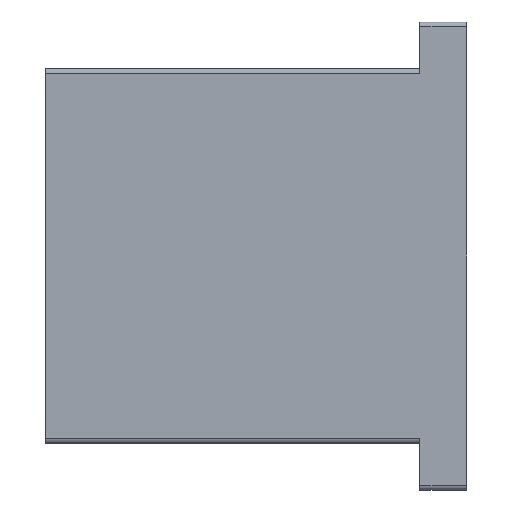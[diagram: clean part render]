
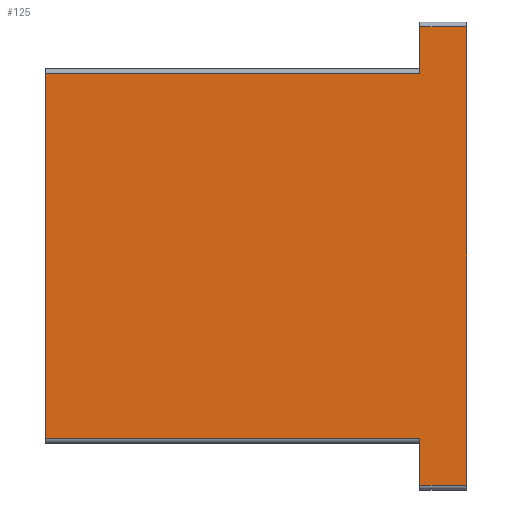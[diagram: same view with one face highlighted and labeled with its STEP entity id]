
A CAD part, left-side view. The second image highlights one B-rep face of the part: STEP entity #125.
In plain terms, the highlighted planar face has unit normal (-1, 0, 0).
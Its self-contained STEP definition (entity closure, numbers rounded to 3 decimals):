
#125=ADVANCED_FACE('',(#1728),#1730,.T.);
#1728=FACE_BOUND('',#1729,.T.);
#1729=EDGE_LOOP('',(#3015,#3016,#3017,#3018,#3019,#3020,#3021,#3022));
#1730=PLANE('',#1731);
#1731=AXIS2_PLACEMENT_3D('',#1732,#1733,#1734);
#1732=CARTESIAN_POINT('',(-32.5,90.,150.));
#1733=DIRECTION('',(-1.,0.,0.));
#1734=DIRECTION('',(0.,0.,-1.));
#3015=ORIENTED_EDGE('',*,*,#3841,.F.);
#3016=ORIENTED_EDGE('',*,*,#3834,.T.);
#3017=ORIENTED_EDGE('',*,*,#3842,.T.);
#3018=ORIENTED_EDGE('',*,*,#3843,.T.);
#3019=ORIENTED_EDGE('',*,*,#3844,.T.);
#3020=ORIENTED_EDGE('',*,*,#3800,.T.);
#3021=ORIENTED_EDGE('',*,*,#3845,.T.);
#3022=ORIENTED_EDGE('',*,*,#3812,.F.);
#3800=EDGE_CURVE('',#4220,#4217,#4221,.F.);
#3812=EDGE_CURVE('',#4242,#4244,#4245,.T.);
#3834=EDGE_CURVE('',#4288,#4286,#4289,.F.);
#3841=EDGE_CURVE('',#4288,#4242,#4299,.T.);
#3842=EDGE_CURVE('',#4286,#4300,#4301,.F.);
#3843=EDGE_CURVE('',#4300,#4302,#4303,.T.);
#3844=EDGE_CURVE('',#4302,#4220,#4304,.F.);
#3845=EDGE_CURVE('',#4217,#4244,#4305,.T.);
#4217=VERTEX_POINT('',#4901);
#4220=VERTEX_POINT('',#4907);
#4221=LINE('',#4908,#4909);
#4242=VERTEX_POINT('',#4957);
#4244=VERTEX_POINT('',#4962);
#4245=LINE('',#4963,#4964);
#4286=VERTEX_POINT('',#5058);
#4288=VERTEX_POINT('',#5063);
#4289=LINE('',#5064,#5065);
#4299=LINE('',#5091,#5092);
#4300=VERTEX_POINT('',#5094);
#4301=LINE('',#5095,#5096);
#4302=VERTEX_POINT('',#5098);
#4303=LINE('',#5099,#5100);
#4304=LINE('',#5102,#5103);
#4305=LINE('',#5105,#5106);
#4901=CARTESIAN_POINT('',(-32.5,10.,51.));
#4907=CARTESIAN_POINT('',(-32.5,10.,61.));
#4908=CARTESIAN_POINT('',(-32.5,10.,51.));
#4909=VECTOR('',#4910,1.);
#4910=DIRECTION('',(0.,0.,1.));
#4957=CARTESIAN_POINT('',(-32.5,0.,149.));
#4962=CARTESIAN_POINT('',(-32.5,0.,51.));
#4963=CARTESIAN_POINT('',(-32.5,0.,149.));
#4964=VECTOR('',#4965,1.);
#4965=DIRECTION('',(0.,0.,-1.));
#5058=CARTESIAN_POINT('',(-32.5,10.,139.));
#5063=CARTESIAN_POINT('',(-32.5,10.,149.));
#5064=CARTESIAN_POINT('',(-32.5,10.,139.));
#5065=VECTOR('',#5066,1.);
#5066=DIRECTION('',(0.,0.,1.));
#5091=CARTESIAN_POINT('',(-32.5,10.,149.));
#5092=VECTOR('',#5093,1.);
#5093=DIRECTION('',(0.,-1.,0.));
#5094=CARTESIAN_POINT('',(-32.5,90.,139.));
#5095=CARTESIAN_POINT('',(-32.5,90.,139.));
#5096=VECTOR('',#5097,1.);
#5097=DIRECTION('',(0.,-1.,0.));
#5098=CARTESIAN_POINT('',(-32.5,90.,61.));
#5099=CARTESIAN_POINT('',(-32.5,90.,139.));
#5100=VECTOR('',#5101,1.);
#5101=DIRECTION('',(0.,0.,-1.));
#5102=CARTESIAN_POINT('',(-32.5,10.,61.));
#5103=VECTOR('',#5104,1.);
#5104=DIRECTION('',(0.,1.,0.));
#5105=CARTESIAN_POINT('',(-32.5,10.,51.));
#5106=VECTOR('',#5107,1.);
#5107=DIRECTION('',(0.,-1.,0.));
